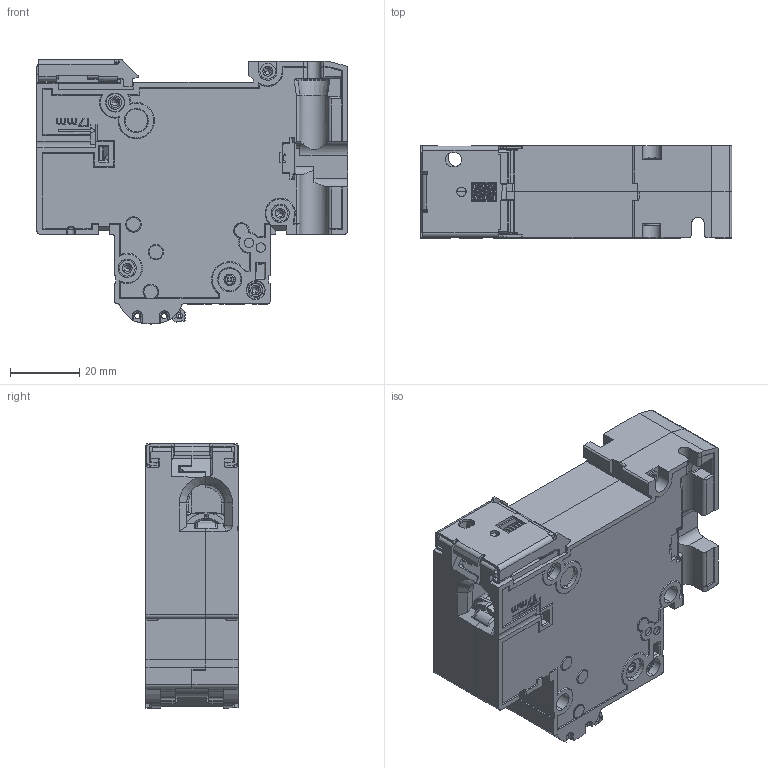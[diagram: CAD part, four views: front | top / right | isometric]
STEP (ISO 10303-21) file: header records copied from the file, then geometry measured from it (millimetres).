
FILE_DESCRIPTION (( 'STEP AP214' ), '1' );
FILE_NAME ('LVN-XC_2pol_step.STEP', '2022-03-01T09:29:53', ( '' ), ( '' ), 'SwSTEP 2.0', 'SolidWorks 2015', '' );
FILE_SCHEMA (( 'AUTOMOTIVE_DESIGN' ));
Length unit declared in the file: millimetre
Products named in the file (1): LVN-XC_2pol_step
Bounding box: 89.98 x 26.6 x 76.3 mm (x, y, z)
Surface area: 55633.3 mm2 (no closed solid volume)
Topology: 0 solids, 73 shells, 4162 faces, 11170 edges, 7171 vertices
Faces by surface type: plane 2069, cylinder 938, bspline 700, cone 426, torus 29
Entity records: 157279 total; most frequent: CARTESIAN_POINT 60153, ORIENTED_EDGE 22232, DIRECTION 16740, EDGE_CURVE 11135, VERTEX_POINT 7171, LINE 6398, VECTOR 6398, AXIS2_PLACEMENT_3D 5171
